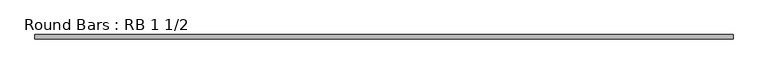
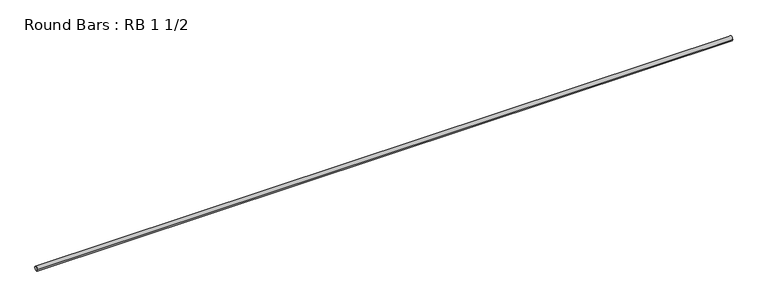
"""IFC4 building model written with IfcOpenShell, lengths in millimetres: member geometry, Round Bars : RB 1 1/2."""

from ifc_helpers import new_model, si_unit, point, frame, origin, origin_2d, place, context, project, spatial, circle_curve, trimmed, segment, composite_curve, outline, extrude, source, transform, mapped, element, save


def round_bars_rb_1_1_2_5c21ed1e(model_context):
    return source(origin(), model_context, "Body", "SweptSolid", [
        extrude(outline(composite_curve([segment(trimmed(circle_curve(origin_2d(), 19.05), [point((19.05, 0.0))], [point((-19.05, 0.0))], False, "CARTESIAN"), True, "CONTINUOUS"), segment(trimmed(circle_curve(origin_2d(), 19.05), [point((-19.05, 0.0))], [point((19.05, 0.0))], False, "CARTESIAN"), True, "CONTINUOUS")], self_intersect=False)), frame((-3136.2411832, 0.0, 0.0), z_axis=(1.0, 0.0, 0.0), x_axis=(0.0, 1.0, 0.0)), (0.0, 0.0, 1.0), 5997.1148195),
    ])


if __name__ == "__main__":
    model = new_model("IFC4")
    model_context = context("Model", 3, world=origin())
    ifc_project = project(units=[si_unit("LENGTHUNIT", "METRE", prefix="MILLI")], contexts=[model_context])
    site = spatial("IfcSite", under=ifc_project)
    building = spatial("IfcBuilding", under=site)
    placement = place(None, origin())
    round_bars_rb_1_1_2_shape = round_bars_rb_1_1_2_5c21ed1e(model_context)
    element("IfcMember", 1, ObjectType="Round Bars : RB 1 1/2", at=placement, inside=building, context=model_context, shape_type="MappedRepresentation", body=[
        mapped(round_bars_rb_1_1_2_shape, transform((0.0, 0.0, 0.0), x_axis=(1.0, 0.0, 0.0), y_axis=(0.0, 1.0, 0.0), z_axis=(0.0, 0.0, 1.0))),
    ])
    save(model, "model.ifc")
